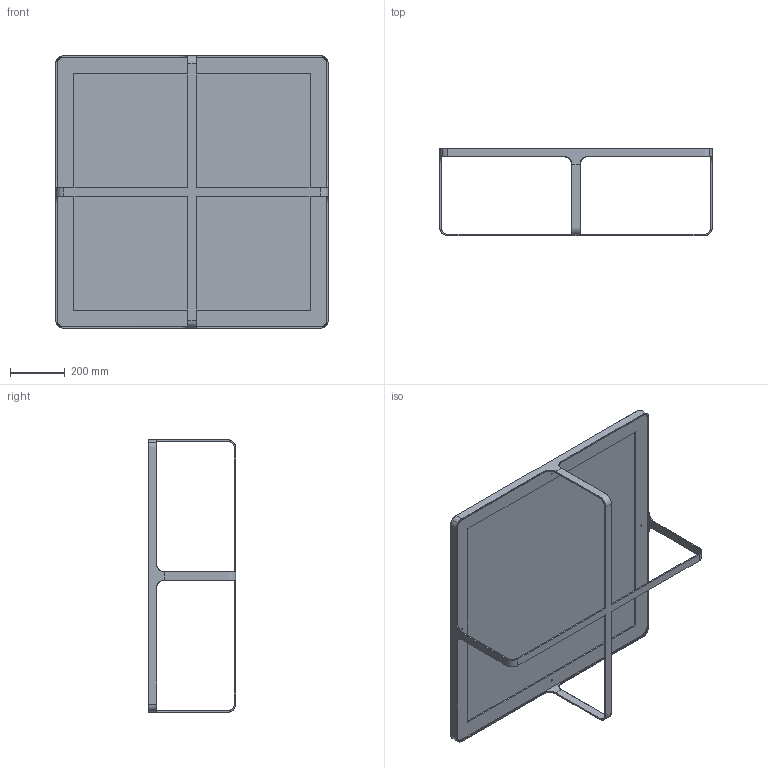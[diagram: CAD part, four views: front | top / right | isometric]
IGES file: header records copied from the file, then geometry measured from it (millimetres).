
Start section: SolidWorks IGES file using analytic representation for surfaces
Global section: file name: W:\design\GORDON GUILLAUMIER\CAGE\IGS\CAGE 100x100.IGS; native system: SolidWorks 2010; preprocessor: SolidWorks 2010; author: PC20; date: 150312.182048; units: millimetre
Bounding box: 1000.13 x 320 x 1000.13 mm (x, y, z)
Surface area: 2929818 mm2 (no closed solid volume)
Topology: 0 solids, 0 shells, 75 faces, 2789 edges, 3231 vertices
Faces by surface type: bspline 63, revolution 12
